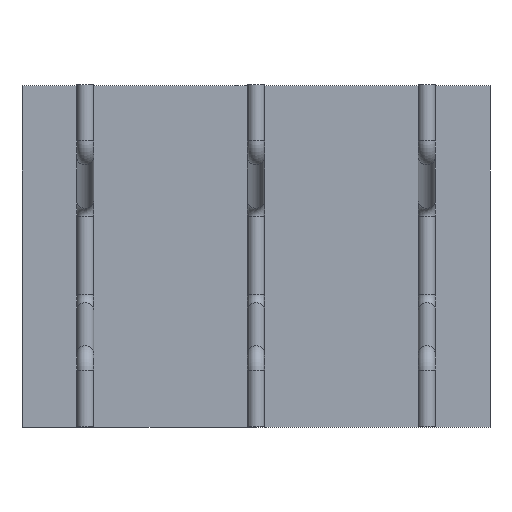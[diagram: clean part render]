
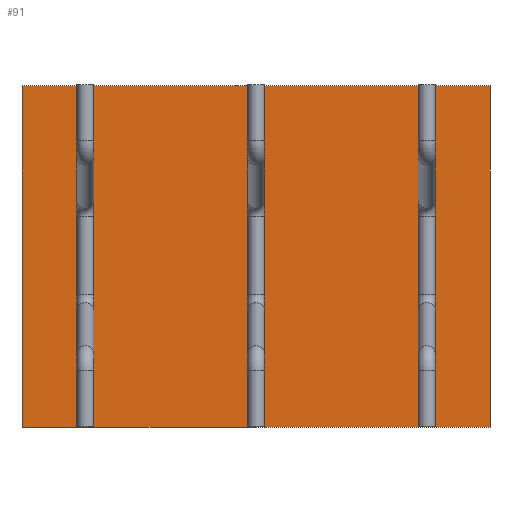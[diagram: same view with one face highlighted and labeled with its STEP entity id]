
A CAD part, top view. The second image highlights one B-rep face of the part: STEP entity #91.
In plain terms, the highlighted planar face has unit normal (0, 0, 1).
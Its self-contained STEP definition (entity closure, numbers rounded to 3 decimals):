
#52=CARTESIAN_POINT('Axis2P3D Location',(0.,0.,0.)) ;
#57=CARTESIAN_POINT('Line Origine',(0.,500.,0.)) ;
#61=CARTESIAN_POINT('Vertex',(685.,500.,0.)) ;
#63=CARTESIAN_POINT('Vertex',(-685.,500.,0.)) ;
#66=CARTESIAN_POINT('Line Origine',(-685.,0.,0.)) ;
#70=CARTESIAN_POINT('Vertex',(-685.,-500.,0.)) ;
#73=CARTESIAN_POINT('Line Origine',(0.,-500.,0.)) ;
#77=CARTESIAN_POINT('Vertex',(685.,-500.,0.)) ;
#80=CARTESIAN_POINT('Line Origine',(685.,0.,0.)) ;
#53=DIRECTION('Axis2P3D Direction',(0.,0.,1.)) ;
#54=DIRECTION('Axis2P3D XDirection',(1.,0.,0.)) ;
#58=DIRECTION('Vector Direction',(1.,0.,0.)) ;
#67=DIRECTION('Vector Direction',(0.,1.,0.)) ;
#74=DIRECTION('Vector Direction',(-1.,0.,0.)) ;
#81=DIRECTION('Vector Direction',(0.,-1.,0.)) ;
#55=AXIS2_PLACEMENT_3D('Plane Axis2P3D',#52,#53,#54) ;
#86=ORIENTED_EDGE('',*,*,#65,.T.) ;
#87=ORIENTED_EDGE('',*,*,#72,.T.) ;
#88=ORIENTED_EDGE('',*,*,#79,.T.) ;
#89=ORIENTED_EDGE('',*,*,#84,.T.) ;
#59=VECTOR('Line Direction',#58,1.) ;
#68=VECTOR('Line Direction',#67,1.) ;
#75=VECTOR('Line Direction',#74,1.) ;
#82=VECTOR('Line Direction',#81,1.) ;
#91=ADVANCED_FACE('Fill.1',(#90),#56,.T.) ;
#65=EDGE_CURVE('',#62,#64,#60,.F.) ;
#72=EDGE_CURVE('',#64,#71,#69,.F.) ;
#79=EDGE_CURVE('',#71,#78,#76,.F.) ;
#84=EDGE_CURVE('',#78,#62,#83,.F.) ;
#85=EDGE_LOOP('',(#86,#87,#88,#89)) ;
#90=FACE_OUTER_BOUND('',#85,.T.) ;
#60=LINE('Line',#57,#59) ;
#69=LINE('Line',#66,#68) ;
#76=LINE('Line',#73,#75) ;
#83=LINE('Line',#80,#82) ;
#56=PLANE('',#55) ;
#62=VERTEX_POINT('',#61) ;
#64=VERTEX_POINT('',#63) ;
#71=VERTEX_POINT('',#70) ;
#78=VERTEX_POINT('',#77) ;
